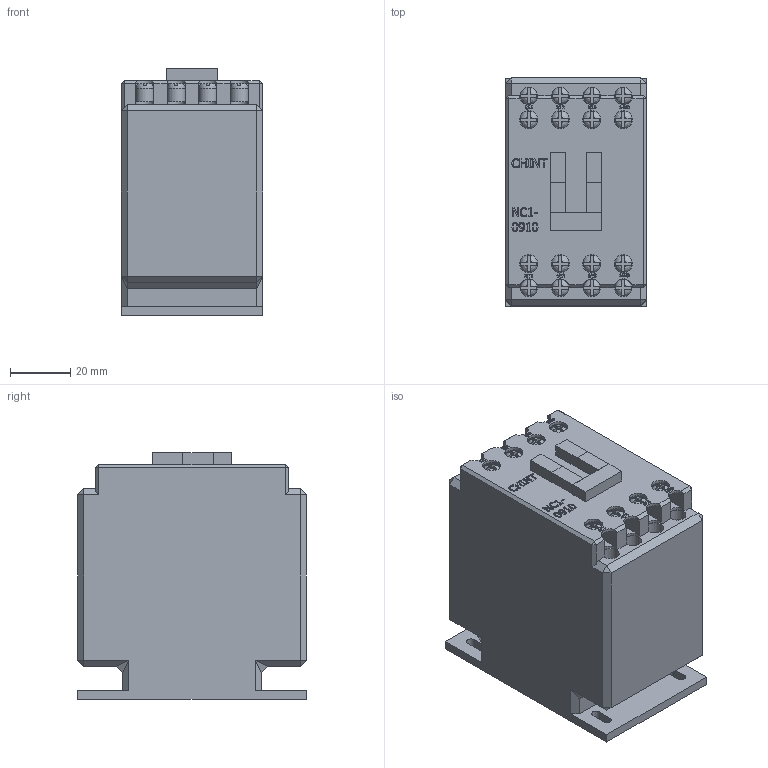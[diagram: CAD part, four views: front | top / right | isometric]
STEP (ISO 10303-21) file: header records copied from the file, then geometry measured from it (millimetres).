
FILE_DESCRIPTION(/* description */ (''),/* implementation_level */ '2;1');
FILE_NAME(/* name */ 'D:\CHINT2\NC1\NC1-0901 230В 50.stp',/* time_stamp */ '2017-11-12T20:05:15+03:00',/* author */ ('RSagdiev'),/* organization */ (''),/* preprocessor_version */ 'ST-DEVELOPER v16.5',/* originating_system */ 'Autodesk Inventor 2017',/* authorisation */ '');
FILE_SCHEMA (('AUTOMOTIVE_DESIGN { 1 0 10303 214 3 1 1 }'));
Length unit declared in the file: millimetre
Products named in the file (1): NC1-0901 230В 50
Bounding box: 47 x 76 x 82 mm (x, y, z)
Volume: 258522 mm3; surface area: 33761.1 mm2
Topology: 19 solids, 19 shells, 1060 faces, 2783 edges, 1818 vertices
Faces by surface type: plane 764, bspline 248, cylinder 48
Full cylindrical faces by diameter (mm): 5.8 x8, 6 x16
Entity records: 35138 total; most frequent: CARTESIAN_POINT 10671, ORIENTED_EDGE 5518, DIRECTION 4077, EDGE_CURVE 2759, LINE 1863, VECTOR 1863, VERTEX_POINT 1818, EDGE_LOOP 1165
